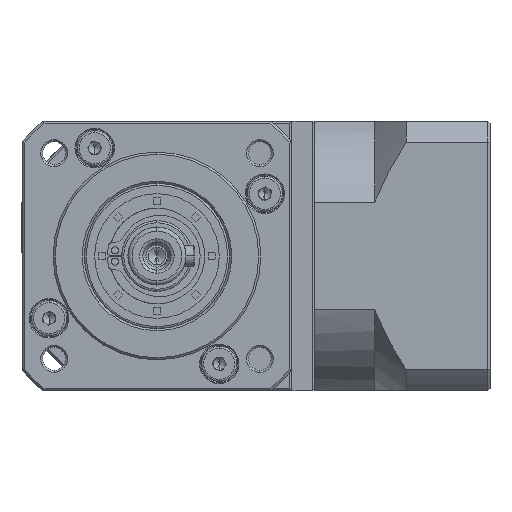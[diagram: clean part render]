
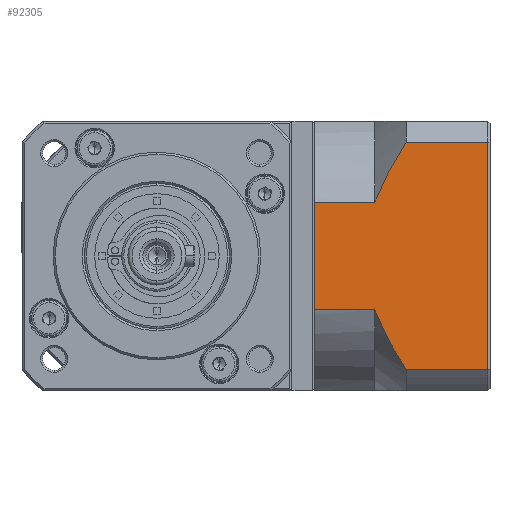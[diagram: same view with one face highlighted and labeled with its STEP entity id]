
A CAD part, left-side view. The second image highlights one B-rep face of the part: STEP entity #92305.
In plain terms, the highlighted planar face has unit normal (-1, 0, 0).
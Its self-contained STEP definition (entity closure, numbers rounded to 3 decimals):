
#1551 = VERTEX_POINT ( 'NONE', #77646 ) ;
#4231 = VECTOR ( 'NONE', #75565, 1000. ) ;
#7360 = LINE ( 'NONE', #140081, #75758 ) ;
#7545 = CARTESIAN_POINT ( 'NONE',  ( -45.204, -67.359, -155.953 ) ) ;
#11771 = CARTESIAN_POINT ( 'NONE',  ( -45.204, -89.908, -105.763 ) ) ;
#14775 = VERTEX_POINT ( 'NONE', #54111 ) ;
#17104 = EDGE_CURVE ( 'NONE', #164198, #81526, #7360, .T. ) ;
#19018 = LINE ( 'NONE', #20274, #83357 ) ;
#20274 = CARTESIAN_POINT ( 'NONE',  ( -45.204, -62.708, -146.14 ) ) ;
#20500 = CARTESIAN_POINT ( 'NONE',  ( -45.204, -70.208, -160.535 ) ) ;
#22889 = CARTESIAN_POINT ( 'NONE',  ( -45.204, -48.208, -120.159 ) ) ;
#23355 = CARTESIAN_POINT ( 'NONE',  ( -45.204, -68.759, -108.052 ) ) ;
#29562 = LINE ( 'NONE', #112489, #162330 ) ;
#30557 = DIRECTION ( 'NONE',  ( 0., 1., 0. ) ) ;
#33192 = DIRECTION ( 'NONE',  ( 0., 1., 0. ) ) ;
#36310 = CARTESIAN_POINT ( 'NONE',  ( -45.204, -66.705, -111.573 ) ) ;
#36464 = DIRECTION ( 'NONE',  ( 1., 0., 0. ) ) ;
#36545 = VERTEX_POINT ( 'NONE', #116009 ) ;
#36663 = LINE ( 'NONE', #120484, #70859 ) ;
#38463 = LINE ( 'NONE', #139768, #4231 ) ;
#39742 = ORIENTED_EDGE ( 'NONE', *, *, #49185, .T. ) ;
#43502 = VERTEX_POINT ( 'NONE', #22889 ) ;
#45754 = CARTESIAN_POINT ( 'NONE',  ( -45.204, -62.946, -146.782 ) ) ;
#47298 = ORIENTED_EDGE ( 'NONE', *, *, #157937, .T. ) ;
#49185 = EDGE_CURVE ( 'NONE', #14775, #85996, #111526, .T. ) ;
#49225 = CARTESIAN_POINT ( 'NONE',  ( -45.204, -63.65, -117.621 ) ) ;
#54111 = CARTESIAN_POINT ( 'NONE',  ( -45.204, -62.708, -146.14 ) ) ;
#56107 = VECTOR ( 'NONE', #69261, 1000. ) ;
#58655 = CARTESIAN_POINT ( 'NONE',  ( -45.204, -63.199, -147.421 ) ) ;
#62910 = DIRECTION ( 'NONE',  ( 0., 0., 1. ) ) ;
#63929 = CARTESIAN_POINT ( 'NONE',  ( -45.204, -70.208, -105.763 ) ) ;
#69261 = DIRECTION ( 'NONE',  ( 0., -1., 0. ) ) ;
#70859 = VECTOR ( 'NONE', #30557, 1000. ) ;
#71647 = CARTESIAN_POINT ( 'NONE',  ( -45.204, -63.998, -149.306 ) ) ;
#75565 = DIRECTION ( 'NONE',  ( 0., 0., -1. ) ) ;
#75758 = VECTOR ( 'NONE', #62910, 1000. ) ;
#76406 = EDGE_LOOP ( 'NONE', ( #97267, #128555, #99034, #136959, #100245, #47298, #109639, #39742 ) ) ;
#77646 = CARTESIAN_POINT ( 'NONE',  ( -45.204, -48.208, -146.14 ) ) ;
#81526 = VERTEX_POINT ( 'NONE', #11771 ) ;
#83357 = VECTOR ( 'NONE', #33192, 1000. ) ;
#84545 = CARTESIAN_POINT ( 'NONE',  ( -45.204, -65.454, -152.372 ) ) ;
#85996 = VERTEX_POINT ( 'NONE', #115134 ) ;
#86990 = EDGE_CURVE ( 'NONE', #43502, #36545, #158838, .T. ) ;
#90494 = EDGE_CURVE ( 'NONE', #14775, #1551, #19018, .T. ) ;
#92305 = ADVANCED_FACE ( 'NONE', ( #140772 ), #138859, .F. ) ;
#97267 = ORIENTED_EDGE ( 'NONE', *, *, #119443, .F. ) ;
#97430 = CARTESIAN_POINT ( 'NONE',  ( -45.204, -68.746, -158.267 ) ) ;
#97646 = EDGE_CURVE ( 'NONE', #151842, #81526, #29562, .T. ) ;
#97897 = CARTESIAN_POINT ( 'NONE',  ( -45.204, -89.908, -160.535 ) ) ;
#99034 = ORIENTED_EDGE ( 'NONE', *, *, #97646, .F. ) ;
#100245 = ORIENTED_EDGE ( 'NONE', *, *, #86990, .F. ) ;
#109639 = ORIENTED_EDGE ( 'NONE', *, *, #90494, .F. ) ;
#111526 = B_SPLINE_CURVE_WITH_KNOTS ( 'NONE', 3,
 ( #122843, #45754, #58655, #148762, #71647, #161643, #84545, #7545, #97430, #20500 ),
 .UNSPECIFIED., .F., .F.,
 ( 4, 2, 2, 2, 4 ),
 ( 0.101, 0.103, 0.105, 0.109, 0.117 ),
 .UNSPECIFIED. ) ;
#112489 = CARTESIAN_POINT ( 'NONE',  ( -45.204, -62.708, -105.763 ) ) ;
#113256 = CARTESIAN_POINT ( 'NONE',  ( -45.204, -67.375, -110.387 ) ) ;
#113403 = CARTESIAN_POINT ( 'NONE',  ( -45.204, -90.408, -165.649 ) ) ;
#115134 = CARTESIAN_POINT ( 'NONE',  ( -45.204, -70.208, -160.535 ) ) ;
#116009 = CARTESIAN_POINT ( 'NONE',  ( -45.204, -62.708, -120.159 ) ) ;
#119443 = EDGE_CURVE ( 'NONE', #164198, #85996, #36663, .T. ) ;
#120484 = CARTESIAN_POINT ( 'NONE',  ( -45.204, -62.708, -160.535 ) ) ;
#122843 = CARTESIAN_POINT ( 'NONE',  ( -45.204, -62.708, -146.14 ) ) ;
#126224 = CARTESIAN_POINT ( 'NONE',  ( -45.204, -64.795, -115.169 ) ) ;
#126367 = DIRECTION ( 'NONE',  ( 0., 1., 0. ) ) ;
#128555 = ORIENTED_EDGE ( 'NONE', *, *, #17104, .T. ) ;
#136959 = ORIENTED_EDGE ( 'NONE', *, *, #162992, .T. ) ;
#138126 = CARTESIAN_POINT ( 'NONE',  ( -45.204, -69.475, -106.901 ) ) ;
#138859 = PLANE ( 'NONE',  #149767 ) ;
#139255 = CARTESIAN_POINT ( 'NONE',  ( -45.204, -62.708, -120.159 ) ) ;
#139768 = CARTESIAN_POINT ( 'NONE',  ( -45.204, -48.208, -165.649 ) ) ;
#140081 = CARTESIAN_POINT ( 'NONE',  ( -45.204, -89.908, -165.649 ) ) ;
#140772 = FACE_OUTER_BOUND ( 'NONE', #76406, .T. ) ;
#143103 = B_SPLINE_CURVE_WITH_KNOTS ( 'NONE', 3,
 ( #164509, #138126, #23355, #113256, #36310, #126224, #49225, #139255 ),
 .UNSPECIFIED., .F., .F.,
 ( 4, 2, 2, 4 ),
 ( 0.058, 0.062, 0.066, 0.074 ),
 .UNSPECIFIED. ) ;
#148762 = CARTESIAN_POINT ( 'NONE',  ( -45.204, -63.725, -148.682 ) ) ;
#149767 = AXIS2_PLACEMENT_3D ( 'NONE', #113403, #36464, #126367 ) ;
#151842 = VERTEX_POINT ( 'NONE', #63929 ) ;
#157084 = CARTESIAN_POINT ( 'NONE',  ( -45.204, -62.708, -120.159 ) ) ;
#157937 = EDGE_CURVE ( 'NONE', #43502, #1551, #38463, .T. ) ;
#158838 = LINE ( 'NONE', #157084, #56107 ) ;
#161643 = CARTESIAN_POINT ( 'NONE',  ( -45.204, -64.849, -151.16 ) ) ;
#162330 = VECTOR ( 'NONE', #164280, 1000. ) ;
#162992 = EDGE_CURVE ( 'NONE', #151842, #36545, #143103, .T. ) ;
#164198 = VERTEX_POINT ( 'NONE', #97897 ) ;
#164280 = DIRECTION ( 'NONE',  ( 0., -1., 0. ) ) ;
#164509 = CARTESIAN_POINT ( 'NONE',  ( -45.204, -70.208, -105.763 ) ) ;
